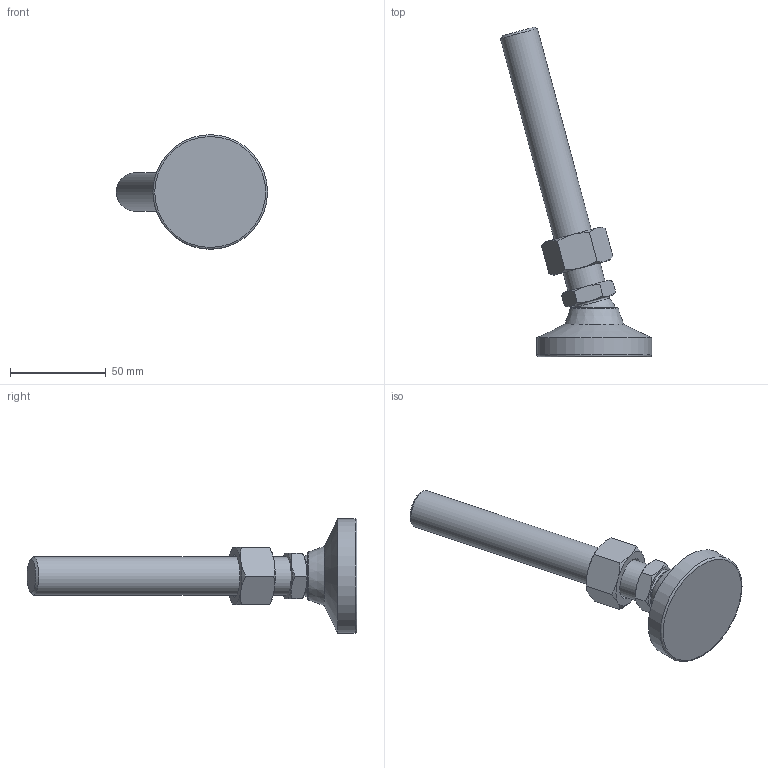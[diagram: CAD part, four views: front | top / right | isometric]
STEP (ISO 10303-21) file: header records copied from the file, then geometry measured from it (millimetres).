
FILE_DESCRIPTION( ( 'STEP AP214' ), ' ' );
FILE_NAME( 'O:/ganter_2015/teil_2/2_5/gn343_2/gn343_2_kse/Levelling foot with threaded stud GN 343.2-60-M20-138-KSE-(15).stp', '2015-10-26T09:17:38', ( '' ), ( '' ), ' ', 'PARTsolutions', ' ' );
FILE_SCHEMA( ( 'AUTOMOTIVE_DESIGN { 1 0 10303 214 1 1 1 1 }' ) );
Length unit declared in the file: millimetre
Products named in the file (4): Levelling foot with threaded stud GN 343.2-60-M20-138-KSE-(15); _Levelling foot with threaded stud GN 343.2-60-M20-138-KSE-(15)_foot; _Levelling foot with threaded stud GN 343.2-60-M20-138-KSE-(15)_screw; _Levelling foot with threaded stud GN 343.2-60-M20-138-KSE-(15)_nut
Assembly tree (3 placements, depth 2):
  Levelling foot with threaded stud GN 343.2-60-M20-138-KSE-(15)
    _Levelling foot with threaded stud GN 343.2-60-M20-138-KSE-(15)_foot
    _Levelling foot with threaded stud GN 343.2-60-M20-138-KSE-(15)_screw
    _Levelling foot with threaded stud GN 343.2-60-M20-138-KSE-(15)_nut
Bounding box: 79.06 x 172.55 x 60 mm (x, y, z)
Volume: 103473.9 mm3; surface area: 24044.5 mm2
Topology: 3 solids, 3 shells, 56 faces, 117 edges, 68 vertices
Faces by surface type: cone 29, plane 19, torus 3, cylinder 3, sphere 2
Full cylindrical faces by diameter (mm): 17.294 x1, 20 x1, 60 x1
Entity records: 2090 total; most frequent: CARTESIAN_POINT 522, DIRECTION 212, ORIENTED_EDGE 200, AXIS2_PLACEMENT_3D 100, EDGE_CURVE 100, EDGE_LOOP 72, VERTEX_POINT 66, FACE_OUTER_BOUND 62
